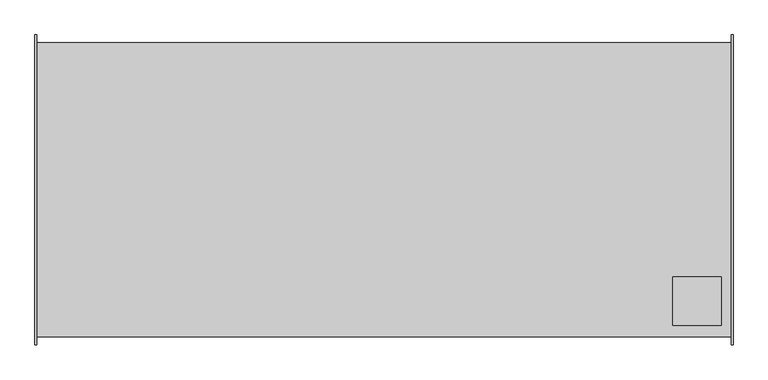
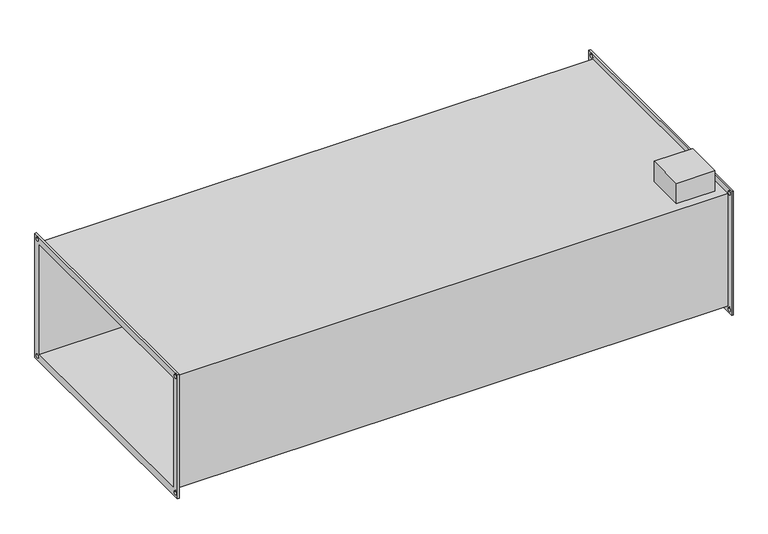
"""IFC4 building model written with IfcOpenShell, lengths in millimetres: proxy geometry."""

from ifc_helpers import new_model, si_unit, frame, origin, place, context, project, spatial, polyline, circle_curve, source, transform, mapped, element, save
from ifc_brep_helpers import plane_surface, revolved_surface, advanced_brep


def mechanical_equipment_2ff812ec(model_context):
    return source(origin(), model_context, "Body", "AdvancedBrep", [
        advanced_brep(
        [(716.0, -304.0, 154.0), (-716.0, -304.0, 154.0), (-716.0, -304.0, -154.0), (716.0, -304.0, -154.0), (-716.0, 304.0, -154.0), (716.0, 304.0, -154.0), (-716.0, 304.0, 154.0), (716.0, 304.0, 154.0), (596.0, -180.0, 154.0), (696.0, -180.0, 154.0), (696.0, -280.0, 154.0), (596.0, -280.0, 154.0), (696.0, -180.0, 210.0), (596.0, -180.0, 210.0), (596.0, -280.0, 210.0), (696.0, -280.0, 210.0), (-720.0, -320.0, 170.0), (-720.0, 320.0, 170.0), (-720.0, 320.0, -170.0), (-720.0, -320.0, -170.0), (-720.0, -300.0, 150.0), (-720.0, -300.0, -150.0), (-720.0, 300.0, -150.0), (-720.0, 300.0, 150.0), (-720.0, -315.0, 160.0), (-720.0, -305.0, 160.0), (-720.0, -315.0, -160.0), (-720.0, -305.0, -160.0), (-720.0, 305.0, -160.0), (-720.0, 315.0, -160.0), (-720.0, 305.0, 160.0), (-720.0, 315.0, 160.0), (-716.0, -320.0, 170.0), (-716.0, -320.0, -170.0), (-716.0, 320.0, -170.0), (-716.0, 320.0, 170.0), (-716.0, -305.0, 160.0), (-716.0, -315.0, 160.0), (-716.0, -305.0, -160.0), (-716.0, -315.0, -160.0), (-716.0, 315.0, -160.0), (-716.0, 305.0, -160.0), (-716.0, 315.0, 160.0), (-716.0, 305.0, 160.0), (716.0, 320.0, 170.0), (716.0, 320.0, -170.0), (716.0, -320.0, -170.0), (716.0, -320.0, 170.0), (716.0, -315.0, 160.0), (716.0, -305.0, 160.0), (716.0, -315.0, -160.0), (716.0, -305.0, -160.0), (716.0, 305.0, -160.0), (716.0, 315.0, -160.0), (716.0, 305.0, 160.0), (716.0, 315.0, 160.0), (720.0, 320.0, 170.0), (720.0, -320.0, 170.0), (720.0, -320.0, -170.0), (720.0, 320.0, -170.0), (720.0, 300.0, 150.0), (720.0, 300.0, -150.0), (720.0, -300.0, -150.0), (720.0, -300.0, 150.0), (720.0, -305.0, 160.0), (720.0, -315.0, 160.0), (720.0, -305.0, -160.0), (720.0, -315.0, -160.0), (720.0, 315.0, -160.0), (720.0, 305.0, -160.0), (720.0, 315.0, 160.0), (720.0, 305.0, 160.0)],
        [
            (0, 1),
            (1, 2),
            (2, 3),
            (3, 0),
            (2, 4),
            (4, 5),
            (5, 3),
            (4, 6),
            (6, 7),
            (7, 5),
            (0, 7),
            (6, 1),
            (8, 9),
            (9, 10),
            (10, 11),
            (11, 8),
            (12, 13),
            (13, 14),
            (14, 15),
            (15, 12),
            (12, 9),
            (8, 13),
            (11, 14),
            (10, 15),
            (16, 17),
            (17, 18),
            (18, 19),
            (19, 16),
            (20, 21),
            (21, 22),
            (22, 23),
            (23, 20),
            (24, 25, circle_curve(frame((-720.0, -310.0, 160.0), z_axis=(1.0, 0.0, 0.0), x_axis=(0.0, 1.0, 0.0)), 5.0)),
            (25, 24, circle_curve(frame((-720.0, -310.0, 160.0), z_axis=(1.0, 0.0, 0.0), x_axis=(0.0, 1.0, 0.0)), 5.0)),
            (26, 27, circle_curve(frame((-720.0, -310.0, -160.0), z_axis=(1.0, 0.0, 0.0), x_axis=(0.0, 1.0, 0.0)), 5.0)),
            (27, 26, circle_curve(frame((-720.0, -310.0, -160.0), z_axis=(1.0, 0.0, 0.0), x_axis=(0.0, 1.0, 0.0)), 5.0)),
            (28, 29, circle_curve(frame((-720.0, 310.0, -160.0), z_axis=(1.0, 0.0, 0.0), x_axis=(0.0, 1.0, 0.0)), 5.0)),
            (29, 28, circle_curve(frame((-720.0, 310.0, -160.0), z_axis=(1.0, 0.0, 0.0), x_axis=(0.0, 1.0, 0.0)), 5.0)),
            (30, 31, circle_curve(frame((-720.0, 310.0, 160.0), z_axis=(1.0, 0.0, 0.0), x_axis=(0.0, 1.0, 0.0)), 5.0)),
            (31, 30, circle_curve(frame((-720.0, 310.0, 160.0), z_axis=(1.0, 0.0, 0.0), x_axis=(0.0, 1.0, 0.0)), 5.0)),
            (32, 33),
            (33, 34),
            (34, 35),
            (35, 32),
            (36, 37, circle_curve(frame((-716.0, -310.0, 160.0), z_axis=(-1.0, 0.0, 0.0), x_axis=(0.0, 1.0, 0.0)), 5.0)),
            (37, 36, circle_curve(frame((-716.0, -310.0, 160.0), z_axis=(-1.0, 0.0, 0.0), x_axis=(0.0, 1.0, 0.0)), 5.0)),
            (38, 39, circle_curve(frame((-716.0, -310.0, -160.0), z_axis=(-1.0, 0.0, 0.0), x_axis=(0.0, 1.0, 0.0)), 5.0)),
            (39, 38, circle_curve(frame((-716.0, -310.0, -160.0), z_axis=(-1.0, 0.0, 0.0), x_axis=(0.0, 1.0, 0.0)), 5.0)),
            (40, 41, circle_curve(frame((-716.0, 310.0, -160.0), z_axis=(-1.0, 0.0, 0.0), x_axis=(0.0, 1.0, 0.0)), 5.0)),
            (41, 40, circle_curve(frame((-716.0, 310.0, -160.0), z_axis=(-1.0, 0.0, 0.0), x_axis=(0.0, 1.0, 0.0)), 5.0)),
            (42, 43, circle_curve(frame((-716.0, 310.0, 160.0), z_axis=(-1.0, 0.0, 0.0), x_axis=(0.0, 1.0, 0.0)), 5.0)),
            (43, 42, circle_curve(frame((-716.0, 310.0, 160.0), z_axis=(-1.0, 0.0, 0.0), x_axis=(0.0, 1.0, 0.0)), 5.0)),
            (19, 33),
            (32, 16),
            (18, 34),
            (17, 35),
            (44, 45),
            (45, 46),
            (46, 47),
            (47, 44),
            (48, 49, circle_curve(frame((716.0, -310.0, 160.0), z_axis=(1.0, 0.0, 0.0), x_axis=(0.0, 1.0, 0.0)), 5.0)),
            (49, 48, circle_curve(frame((716.0, -310.0, 160.0), z_axis=(1.0, 0.0, 0.0), x_axis=(0.0, 1.0, 0.0)), 5.0)),
            (50, 51, circle_curve(frame((716.0, -310.0, -160.0), z_axis=(1.0, 0.0, 0.0), x_axis=(0.0, 1.0, 0.0)), 5.0)),
            (51, 50, circle_curve(frame((716.0, -310.0, -160.0), z_axis=(1.0, 0.0, 0.0), x_axis=(0.0, 1.0, 0.0)), 5.0)),
            (52, 53, circle_curve(frame((716.0, 310.0, -160.0), z_axis=(1.0, 0.0, 0.0), x_axis=(0.0, 1.0, 0.0)), 5.0)),
            (53, 52, circle_curve(frame((716.0, 310.0, -160.0), z_axis=(1.0, 0.0, 0.0), x_axis=(0.0, 1.0, 0.0)), 5.0)),
            (54, 55, circle_curve(frame((716.0, 310.0, 160.0), z_axis=(1.0, 0.0, 0.0), x_axis=(0.0, 1.0, 0.0)), 5.0)),
            (55, 54, circle_curve(frame((716.0, 310.0, 160.0), z_axis=(1.0, 0.0, 0.0), x_axis=(0.0, 1.0, 0.0)), 5.0)),
            (56, 57),
            (57, 58),
            (58, 59),
            (59, 56),
            (60, 61),
            (61, 62),
            (62, 63),
            (63, 60),
            (64, 65, circle_curve(frame((720.0, -310.0, 160.0), z_axis=(-1.0, 0.0, 0.0), x_axis=(0.0, 1.0, 0.0)), 5.0)),
            (65, 64, circle_curve(frame((720.0, -310.0, 160.0), z_axis=(-1.0, 0.0, 0.0), x_axis=(0.0, 1.0, 0.0)), 5.0)),
            (66, 67, circle_curve(frame((720.0, -310.0, -160.0), z_axis=(-1.0, 0.0, 0.0), x_axis=(0.0, 1.0, 0.0)), 5.0)),
            (67, 66, circle_curve(frame((720.0, -310.0, -160.0), z_axis=(-1.0, 0.0, 0.0), x_axis=(0.0, 1.0, 0.0)), 5.0)),
            (68, 69, circle_curve(frame((720.0, 310.0, -160.0), z_axis=(-1.0, 0.0, 0.0), x_axis=(0.0, 1.0, 0.0)), 5.0)),
            (69, 68, circle_curve(frame((720.0, 310.0, -160.0), z_axis=(-1.0, 0.0, 0.0), x_axis=(0.0, 1.0, 0.0)), 5.0)),
            (70, 71, circle_curve(frame((720.0, 310.0, 160.0), z_axis=(-1.0, 0.0, 0.0), x_axis=(0.0, 1.0, 0.0)), 5.0)),
            (71, 70, circle_curve(frame((720.0, 310.0, 160.0), z_axis=(-1.0, 0.0, 0.0), x_axis=(0.0, 1.0, 0.0)), 5.0)),
            (47, 57),
            (56, 44),
            (46, 58),
            (45, 59),
            (23, 60),
            (63, 20),
            (22, 61),
            (21, 62),
            (24, 37),
            (36, 25),
            (48, 65),
            (64, 49),
            (26, 39),
            (38, 27),
            (50, 67),
            (66, 51),
            (28, 41),
            (40, 29),
            (52, 69),
            (68, 53),
            (30, 43),
            (42, 31),
            (54, 71),
            (70, 55),
        ],
        [
            plane_surface(frame((716.0, -304.0, 154.0), z_axis=(0.0, -1.0, 0.0), x_axis=(-1.0, 0.0, 0.0))),
            plane_surface(frame((716.0, -304.0, -154.0), z_axis=(0.0, 0.0, -1.0), x_axis=(-1.0, 0.0, 0.0))),
            plane_surface(frame((716.0, 304.0, -154.0), z_axis=(0.0, 1.0, 0.0), x_axis=(-1.0, 0.0, 0.0))),
            plane_surface(frame((716.0, 304.0, 154.0), z_axis=(0.0, 0.0, 1.0), x_axis=(-1.0, 0.0, 0.0))),
            plane_surface(frame((596.0, -180.0, 210.0), z_axis=(0.0, 0.0, 1.0), x_axis=(-1.0, 0.0, 0.0))),
            plane_surface(frame((696.0, -180.0, 210.0), z_axis=(0.0, 1.0, 0.0), x_axis=(0.0, 0.0, -1.0))),
            plane_surface(frame((596.0, -180.0, 210.0), z_axis=(-1.0, 0.0, 0.0), x_axis=(0.0, 0.0, -1.0))),
            plane_surface(frame((596.0, -280.0, 210.0), z_axis=(0.0, -1.0, 0.0), x_axis=(0.0, 0.0, -1.0))),
            plane_surface(frame((696.0, -280.0, 210.0), z_axis=(1.0, 0.0, 0.0), x_axis=(0.0, 0.0, -1.0))),
            plane_surface(frame((-720.0, -320.0, 170.0), z_axis=(-1.0, 0.0, 0.0), x_axis=(0.0, 0.0, 1.0))),
            plane_surface(frame((-716.0, -320.0, 170.0), z_axis=(1.0, 0.0, 0.0), x_axis=(0.0, 0.0, -1.0))),
            plane_surface(frame((-716.0, -320.0, 170.0), z_axis=(0.0, -1.0, 0.0), x_axis=(-1.0, 0.0, 0.0))),
            plane_surface(frame((-716.0, -320.0, -170.0), z_axis=(0.0, 0.0, -1.0), x_axis=(-1.0, 0.0, 0.0))),
            plane_surface(frame((-716.0, 320.0, -170.0), z_axis=(0.0, 1.0, 0.0), x_axis=(-1.0, 0.0, 0.0))),
            plane_surface(frame((-716.0, 320.0, 170.0), z_axis=(0.0, 0.0, 1.0), x_axis=(-1.0, 0.0, 0.0))),
            plane_surface(frame((716.0, 300.0, -150.0), z_axis=(-1.0, 0.0, 0.0), x_axis=(0.0, 0.0, 1.0))),
            plane_surface(frame((720.0, 300.0, -150.0), z_axis=(1.0, 0.0, 0.0), x_axis=(0.0, 0.0, -1.0))),
            plane_surface(frame((720.0, 320.0, 170.0), z_axis=(0.0, 0.0, 1.0), x_axis=(-1.0, 0.0, 0.0))),
            plane_surface(frame((720.0, -320.0, 170.0), z_axis=(0.0, -1.0, 0.0), x_axis=(-1.0, 0.0, 0.0))),
            plane_surface(frame((720.0, -320.0, -170.0), z_axis=(0.0, 0.0, -1.0), x_axis=(-1.0, 0.0, 0.0))),
            plane_surface(frame((720.0, 320.0, -170.0), z_axis=(0.0, 1.0, 0.0), x_axis=(-1.0, 0.0, 0.0))),
            plane_surface(frame((-716.0, -300.0, 150.0), z_axis=(0.0, 0.0, -1.0), x_axis=(-1.0, 0.0, 0.0))),
            plane_surface(frame((-716.0, 300.0, 150.0), z_axis=(0.0, -1.0, 0.0), x_axis=(-1.0, 0.0, 0.0))),
            plane_surface(frame((-716.0, 300.0, -150.0), z_axis=(0.0, 0.0, 1.0), x_axis=(-1.0, 0.0, 0.0))),
            plane_surface(frame((-716.0, -300.0, -150.0), z_axis=(0.0, 1.0, 0.0), x_axis=(-1.0, 0.0, 0.0))),
            revolved_surface(polyline([(-716.0, -305.0, 160.0), (-720.0, -305.0, 160.0)]), (-720.0, -310.0, 160.0), (1.0, 0.0, 0.0)),
            revolved_surface(polyline([(720.0, -305.0, 160.0), (716.0, -305.0, 160.0)]), (-720.0, -310.0, 160.0), (1.0, 0.0, 0.0)),
            revolved_surface(polyline([(-716.0, -305.0, -160.0), (-720.0, -305.0, -160.0)]), (0.0, -310.0, -160.0), (1.0, 0.0, 0.0)),
            revolved_surface(polyline([(720.0, -305.0, -160.0), (716.0, -305.0, -160.0)]), (0.0, -310.0, -160.0), (1.0, 0.0, 0.0)),
            revolved_surface(polyline([(-716.0, 315.0, -160.0), (-720.0, 315.0, -160.0)]), (0.0, 310.0, -160.0), (1.0, 0.0, 0.0)),
            revolved_surface(polyline([(720.0, 315.0, -160.0), (716.0, 315.0, -160.0)]), (0.0, 310.0, -160.0), (1.0, 0.0, 0.0)),
            revolved_surface(polyline([(-716.0, 315.0, 160.0), (-720.0, 315.0, 160.0)]), (0.0, 310.0, 160.0), (1.0, 0.0, 0.0)),
            revolved_surface(polyline([(720.0, 315.0, 160.0), (716.0, 315.0, 160.0)]), (0.0, 310.0, 160.0), (1.0, 0.0, 0.0)),
        ],
        [
            (0, [[1, 2, 3, 4]]),
            (1, [[-3, 5, 6, 7]]),
            (2, [[-6, 8, 9, 10]]),
            (3, [[-1, 11, -9, 12], [13, 14, 15, 16]]),
            (4, [[17, 18, 19, 20]]),
            (5, [[-17, 21, -13, 22]]),
            (6, [[-18, -22, -16, 23]]),
            (7, [[-19, -23, -15, 24]]),
            (8, [[-20, -24, -14, -21]]),
            (9, [[25, 26, 27, 28], [29, 30, 31, 32], [33, 34], [35, 36], [37, 38], [39, 40]]),
            (10, [[41, 42, 43, 44], [-2, -12, -8, -5], [45, 46], [47, 48], [49, 50], [51, 52]]),
            (11, [[-28, 53, -41, 54]]),
            (12, [[-27, 55, -42, -53]]),
            (13, [[-26, 56, -43, -55]]),
            (14, [[-25, -54, -44, -56]]),
            (15, [[57, 58, 59, 60], [-4, -7, -10, -11], [61, 62], [63, 64], [65, 66], [67, 68]]),
            (16, [[69, 70, 71, 72], [73, 74, 75, 76], [77, 78], [79, 80], [81, 82], [83, 84]]),
            (17, [[-60, 85, -69, 86]]),
            (18, [[-59, 87, -70, -85]]),
            (19, [[-58, 88, -71, -87]]),
            (20, [[-57, -86, -72, -88]]),
            (21, [[-32, 89, -76, 90]]),
            (22, [[-31, 91, -73, -89]]),
            (23, [[-30, 92, -74, -91]]),
            (24, [[-29, -90, -75, -92]]),
            (25, [[93, -45, 94, -33]]),
            (26, [[95, -77, 96, -61]]),
            (25, [[-93, -34, -94, -46]]),
            (26, [[-95, -62, -96, -78]]),
            (27, [[97, -47, 98, -35]]),
            (28, [[99, -79, 100, -63]]),
            (27, [[-97, -36, -98, -48]]),
            (28, [[-99, -64, -100, -80]]),
            (29, [[101, -49, 102, -37]]),
            (30, [[103, -81, 104, -65]]),
            (29, [[-101, -38, -102, -50]]),
            (30, [[-103, -66, -104, -82]]),
            (31, [[105, -51, 106, -39]]),
            (32, [[107, -83, 108, -67]]),
            (31, [[-105, -40, -106, -52]]),
            (32, [[-107, -68, -108, -84]]),
        ],
    ),
    ])


if __name__ == "__main__":
    model = new_model("IFC4")
    model_context = context("Model", 3, world=origin())
    ifc_project = project(units=[si_unit("LENGTHUNIT", "METRE", prefix="MILLI")], contexts=[model_context])
    site = spatial("IfcSite", under=ifc_project)
    building = spatial("IfcBuilding", under=site)
    placement = place(None, origin())
    mechanical_equipment_shape = mechanical_equipment_2ff812ec(model_context)
    element("IfcBuildingElementProxy", 1, Name="Mechanical Equipment", at=placement, inside=building, context=model_context, shape_type="MappedRepresentation", body=[
        mapped(mechanical_equipment_shape, transform((0.0, 0.0, 0.0), x_axis=(1.0, 0.0, 0.0), y_axis=(0.0, 1.0, 0.0), z_axis=(0.0, 0.0, 1.0))),
    ])
    save(model, "model.ifc")
